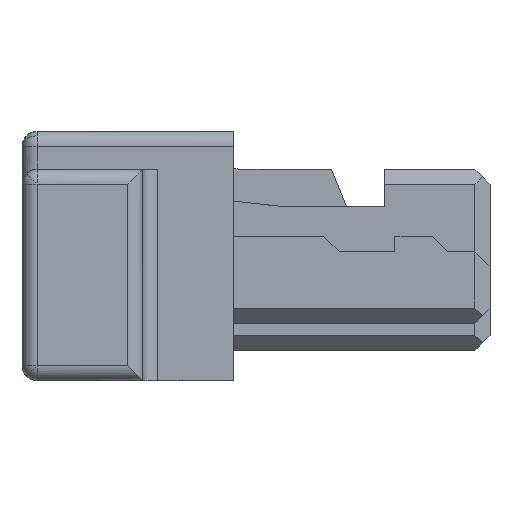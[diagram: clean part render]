
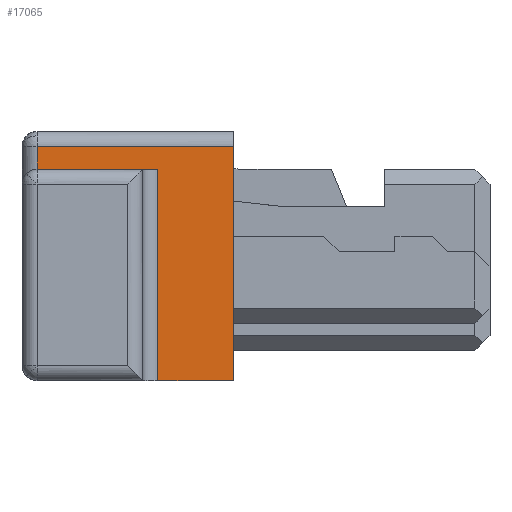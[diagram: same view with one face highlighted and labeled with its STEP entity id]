
A CAD part, front view. The second image highlights one B-rep face of the part: STEP entity #17065.
In plain terms, the highlighted planar face has unit normal (0, -1, 0).
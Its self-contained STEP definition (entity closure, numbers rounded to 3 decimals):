
#1423=DIRECTION('',(0.,0.,1.));
#1424=VECTOR('',#1423,0.15);
#1425=CARTESIAN_POINT('',(0.1,-10.,0.575));
#1426=LINE('',#1425,#1424);
#1431=DIRECTION('',(1.,0.,0.));
#1432=VECTOR('',#1431,0.5);
#1433=CARTESIAN_POINT('',(0.9,-10.,-0.825));
#1434=LINE('',#1433,#1432);
#1435=DIRECTION('',(1.,0.,0.));
#1436=VECTOR('',#1435,0.8);
#1437=CARTESIAN_POINT('',(0.1,-10.,0.575));
#1438=LINE('',#1437,#1436);
#1443=DIRECTION('',(1.,0.,0.));
#1444=VECTOR('',#1443,1.3);
#1445=CARTESIAN_POINT('',(0.1,-10.,0.725));
#1446=LINE('',#1445,#1444);
#1705=DIRECTION('',(0.,0.,1.));
#1706=VECTOR('',#1705,1.4);
#1707=CARTESIAN_POINT('',(0.9,-10.,-0.825));
#1708=LINE('',#1707,#1706);
#1753=DIRECTION('',(0.,0.,-1.));
#1754=VECTOR('',#1753,1.55);
#1755=CARTESIAN_POINT('',(1.4,-10.,0.725));
#1756=LINE('',#1755,#1754);
#12252=CARTESIAN_POINT('',(1.4,-10.,-0.825));
#12253=VERTEX_POINT('',#12252);
#12254=CARTESIAN_POINT('',(1.4,-10.,0.725));
#12255=VERTEX_POINT('',#12254);
#12271=CARTESIAN_POINT('',(0.1,-10.,0.575));
#12273=VERTEX_POINT('',#12271);
#12306=CARTESIAN_POINT('',(0.1,-10.,0.725));
#12307=VERTEX_POINT('',#12306);
#12847=CARTESIAN_POINT('',(0.9,-10.,0.575));
#12848=VERTEX_POINT('',#12847);
#12857=CARTESIAN_POINT('',(0.9,-10.,-0.825));
#12858=VERTEX_POINT('',#12857);
#17047=CARTESIAN_POINT('',(0.75,-10.,-0.05));
#17048=DIRECTION('',(0.,1.,0.));
#17049=DIRECTION('',(-1.,0.,0.));
#17050=AXIS2_PLACEMENT_3D('',#17047,#17048,#17049);
#17051=PLANE('',#17050);
#17052=ORIENTED_EDGE('',*,*,#17038,.T.);
#17054=ORIENTED_EDGE('',*,*,#17053,.T.);
#17056=ORIENTED_EDGE('',*,*,#17055,.T.);
#17058=ORIENTED_EDGE('',*,*,#17057,.F.);
#17060=ORIENTED_EDGE('',*,*,#17059,.T.);
#17062=ORIENTED_EDGE('',*,*,#17061,.F.);
#17063=EDGE_LOOP('',(#17052,#17054,#17056,#17058,#17060,#17062));
#17064=FACE_OUTER_BOUND('',#17063,.F.);
#17065=ADVANCED_FACE('',(#17064),#17051,.F.);
#17038=EDGE_CURVE('',#12273,#12307,#1426,.T.);
#17053=EDGE_CURVE('',#12307,#12255,#1446,.T.);
#17055=EDGE_CURVE('',#12255,#12253,#1756,.T.);
#17057=EDGE_CURVE('',#12858,#12253,#1434,.T.);
#17059=EDGE_CURVE('',#12858,#12848,#1708,.T.);
#17061=EDGE_CURVE('',#12273,#12848,#1438,.T.);
